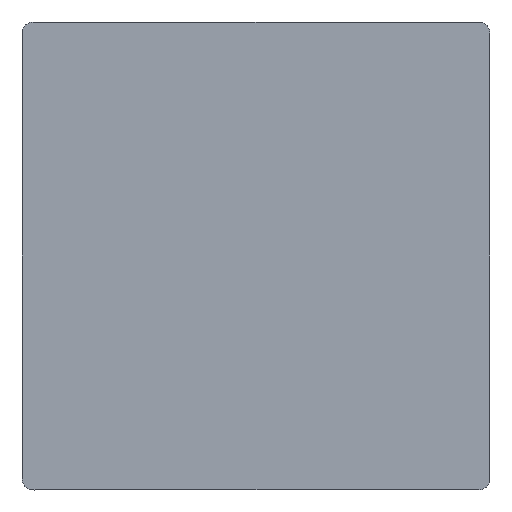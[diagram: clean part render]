
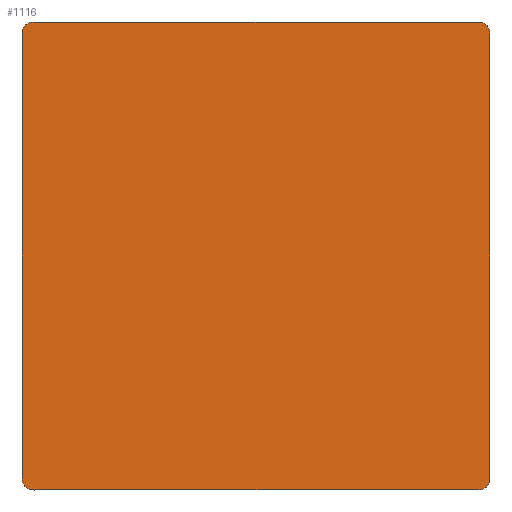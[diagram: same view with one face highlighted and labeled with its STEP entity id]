
A CAD part, front view. The second image highlights one B-rep face of the part: STEP entity #1116.
In plain terms, the highlighted planar face has unit normal (0, -1, 0).
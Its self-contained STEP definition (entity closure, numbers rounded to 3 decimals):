
#18 = FACE_OUTER_BOUND ( 'NONE', #782, .T. ) ;
#30 = DIRECTION ( 'NONE',  ( 0., -1., 0. ) ) ;
#47 = ORIENTED_EDGE ( 'NONE', *, *, #1465, .T. ) ;
#58 = EDGE_CURVE ( 'NONE', #1157, #215, #1915, .T. ) ;
#75 = AXIS2_PLACEMENT_3D ( 'NONE', #1553, #30, #2331 ) ;
#90 = EDGE_CURVE ( 'NONE', #506, #265, #885, .T. ) ;
#114 = VERTEX_POINT ( 'NONE', #953 ) ;
#150 = CARTESIAN_POINT ( 'NONE',  ( 2.867, 0., -9.1 ) ) ;
#215 = VERTEX_POINT ( 'NONE', #1397 ) ;
#265 = VERTEX_POINT ( 'NONE', #1005 ) ;
#315 = CARTESIAN_POINT ( 'NONE',  ( 8.602, 0., 9.1 ) ) ;
#322 = CARTESIAN_POINT ( 'NONE',  ( 9.1, 0., 2.867 ) ) ;
#352 = CARTESIAN_POINT ( 'NONE',  ( -2.867, 0., -9.1 ) ) ;
#381 = CARTESIAN_POINT ( 'NONE',  ( -9.1, 0., -8.934 ) ) ;
#394 = B_SPLINE_CURVE_WITH_KNOTS ( 'NONE', 3,
 ( #1899, #1477, #322, #929 ),
 .UNSPECIFIED., .F., .F.,
 ( 4, 4 ),
 ( 0., 1. ),
 .UNSPECIFIED. ) ;
#428 = ORIENTED_EDGE ( 'NONE', *, *, #2289, .F. ) ;
#452 = VERTEX_POINT ( 'NONE', #1111 ) ;
#462 = CARTESIAN_POINT ( 'NONE',  ( -8.602, 0., -9.1 ) ) ;
#480 = EDGE_CURVE ( 'NONE', #506, #1571, #394, .T. ) ;
#506 = VERTEX_POINT ( 'NONE', #1272 ) ;
#510 = EDGE_CURVE ( 'NONE', #452, #215, #676, .T. ) ;
#515 = CARTESIAN_POINT ( 'NONE',  ( -9.1, 0., -8.602 ) ) ;
#535 = CARTESIAN_POINT ( 'NONE',  ( -9.1, 0., 2.867 ) ) ;
#573 = CARTESIAN_POINT ( 'NONE',  ( -8.934, 0., -9.1 ) ) ;
#676 = B_SPLINE_CURVE_WITH_KNOTS ( 'NONE', 3,
 ( #1888, #535, #697, #515 ),
 .UNSPECIFIED., .F., .F.,
 ( 4, 4 ),
 ( 0., 1. ),
 .UNSPECIFIED. ) ;
#685 = B_SPLINE_CURVE_WITH_KNOTS ( 'NONE', 3,
 ( #315, #2066, #1482, #2099 ),
 .UNSPECIFIED., .F., .F.,
 ( 4, 4 ),
 ( 0., 1. ),
 .UNSPECIFIED. ) ;
#697 = CARTESIAN_POINT ( 'NONE',  ( -9.1, 0., -2.867 ) ) ;
#759 = CARTESIAN_POINT ( 'NONE',  ( 8.602, 0., -9.1 ) ) ;
#782 = EDGE_LOOP ( 'NONE', ( #2191, #428, #47, #1809, #2016, #2268, #2349, #1199 ) ) ;
#809 = CARTESIAN_POINT ( 'NONE',  ( 8.934, 0., -9.1 ) ) ;
#878 = CARTESIAN_POINT ( 'NONE',  ( -9.1, 0., 8.602 ) ) ;
#885 = B_SPLINE_CURVE_WITH_KNOTS ( 'NONE', 3,
 ( #1966, #1383, #809, #759 ),
 .UNSPECIFIED., .F., .F.,
 ( 4, 4 ),
 ( 0., 1. ),
 .UNSPECIFIED. ) ;
#929 = CARTESIAN_POINT ( 'NONE',  ( 9.1, 0., 8.602 ) ) ;
#953 = CARTESIAN_POINT ( 'NONE',  ( -8.602, 0., 9.1 ) ) ;
#1005 = CARTESIAN_POINT ( 'NONE',  ( 8.602, 0., -9.1 ) ) ;
#1111 = CARTESIAN_POINT ( 'NONE',  ( -9.1, 0., 8.602 ) ) ;
#1116 = ADVANCED_FACE ( 'NONE', ( #18 ), #1928, .T. ) ;
#1157 = VERTEX_POINT ( 'NONE', #2049 ) ;
#1199 = ORIENTED_EDGE ( 'NONE', *, *, #90, .F. ) ;
#1272 = CARTESIAN_POINT ( 'NONE',  ( 9.1, 0., -8.602 ) ) ;
#1326 = CARTESIAN_POINT ( 'NONE',  ( -2.867, 0., 9.1 ) ) ;
#1357 = CARTESIAN_POINT ( 'NONE',  ( 8.602, 0., 9.1 ) ) ;
#1383 = CARTESIAN_POINT ( 'NONE',  ( 9.1, 0., -8.934 ) ) ;
#1397 = CARTESIAN_POINT ( 'NONE',  ( -9.1, 0., -8.602 ) ) ;
#1457 = CARTESIAN_POINT ( 'NONE',  ( -8.934, 0., 9.1 ) ) ;
#1465 = EDGE_CURVE ( 'NONE', #1597, #114, #1537, .T. ) ;
#1477 = CARTESIAN_POINT ( 'NONE',  ( 9.1, 0., -2.867 ) ) ;
#1482 = CARTESIAN_POINT ( 'NONE',  ( 9.1, 0., 8.934 ) ) ;
#1520 = CARTESIAN_POINT ( 'NONE',  ( 8.602, 0., 9.1 ) ) ;
#1537 = B_SPLINE_CURVE_WITH_KNOTS ( 'NONE', 3,
 ( #1520, #1751, #1326, #1921 ),
 .UNSPECIFIED., .F., .F.,
 ( 4, 4 ),
 ( 0., 1. ),
 .UNSPECIFIED. ) ;
#1553 = CARTESIAN_POINT ( 'NONE',  ( 0., 0., 0. ) ) ;
#1564 = CARTESIAN_POINT ( 'NONE',  ( -9.1, 0., -8.602 ) ) ;
#1571 = VERTEX_POINT ( 'NONE', #2364 ) ;
#1597 = VERTEX_POINT ( 'NONE', #1357 ) ;
#1625 = CARTESIAN_POINT ( 'NONE',  ( -9.1, 0., 8.934 ) ) ;
#1664 = B_SPLINE_CURVE_WITH_KNOTS ( 'NONE', 3,
 ( #2512, #352, #150, #2272 ),
 .UNSPECIFIED., .F., .F.,
 ( 4, 4 ),
 ( 0., 1. ),
 .UNSPECIFIED. ) ;
#1728 = EDGE_CURVE ( 'NONE', #452, #114, #2270, .T. ) ;
#1751 = CARTESIAN_POINT ( 'NONE',  ( 2.867, 0., 9.1 ) ) ;
#1764 = EDGE_CURVE ( 'NONE', #1157, #265, #1664, .T. ) ;
#1809 = ORIENTED_EDGE ( 'NONE', *, *, #1728, .F. ) ;
#1888 = CARTESIAN_POINT ( 'NONE',  ( -9.1, 0., 8.602 ) ) ;
#1899 = CARTESIAN_POINT ( 'NONE',  ( 9.1, 0., -8.602 ) ) ;
#1915 = B_SPLINE_CURVE_WITH_KNOTS ( 'NONE', 3,
 ( #462, #573, #381, #1564 ),
 .UNSPECIFIED., .F., .F.,
 ( 4, 4 ),
 ( 0., 1. ),
 .UNSPECIFIED. ) ;
#1921 = CARTESIAN_POINT ( 'NONE',  ( -8.602, 0., 9.1 ) ) ;
#1928 = PLANE ( 'NONE',  #75 ) ;
#1966 = CARTESIAN_POINT ( 'NONE',  ( 9.1, 0., -8.602 ) ) ;
#2016 = ORIENTED_EDGE ( 'NONE', *, *, #510, .T. ) ;
#2049 = CARTESIAN_POINT ( 'NONE',  ( -8.602, 0., -9.1 ) ) ;
#2066 = CARTESIAN_POINT ( 'NONE',  ( 8.934, 0., 9.1 ) ) ;
#2099 = CARTESIAN_POINT ( 'NONE',  ( 9.1, 0., 8.602 ) ) ;
#2191 = ORIENTED_EDGE ( 'NONE', *, *, #480, .T. ) ;
#2268 = ORIENTED_EDGE ( 'NONE', *, *, #58, .F. ) ;
#2270 = B_SPLINE_CURVE_WITH_KNOTS ( 'NONE', 3,
 ( #878, #1625, #1457, #2454 ),
 .UNSPECIFIED., .F., .F.,
 ( 4, 4 ),
 ( 0., 1. ),
 .UNSPECIFIED. ) ;
#2272 = CARTESIAN_POINT ( 'NONE',  ( 8.602, 0., -9.1 ) ) ;
#2289 = EDGE_CURVE ( 'NONE', #1597, #1571, #685, .T. ) ;
#2331 = DIRECTION ( 'NONE',  ( 0., 0., -1. ) ) ;
#2349 = ORIENTED_EDGE ( 'NONE', *, *, #1764, .T. ) ;
#2364 = CARTESIAN_POINT ( 'NONE',  ( 9.1, 0., 8.602 ) ) ;
#2454 = CARTESIAN_POINT ( 'NONE',  ( -8.602, 0., 9.1 ) ) ;
#2512 = CARTESIAN_POINT ( 'NONE',  ( -8.602, 0., -9.1 ) ) ;
